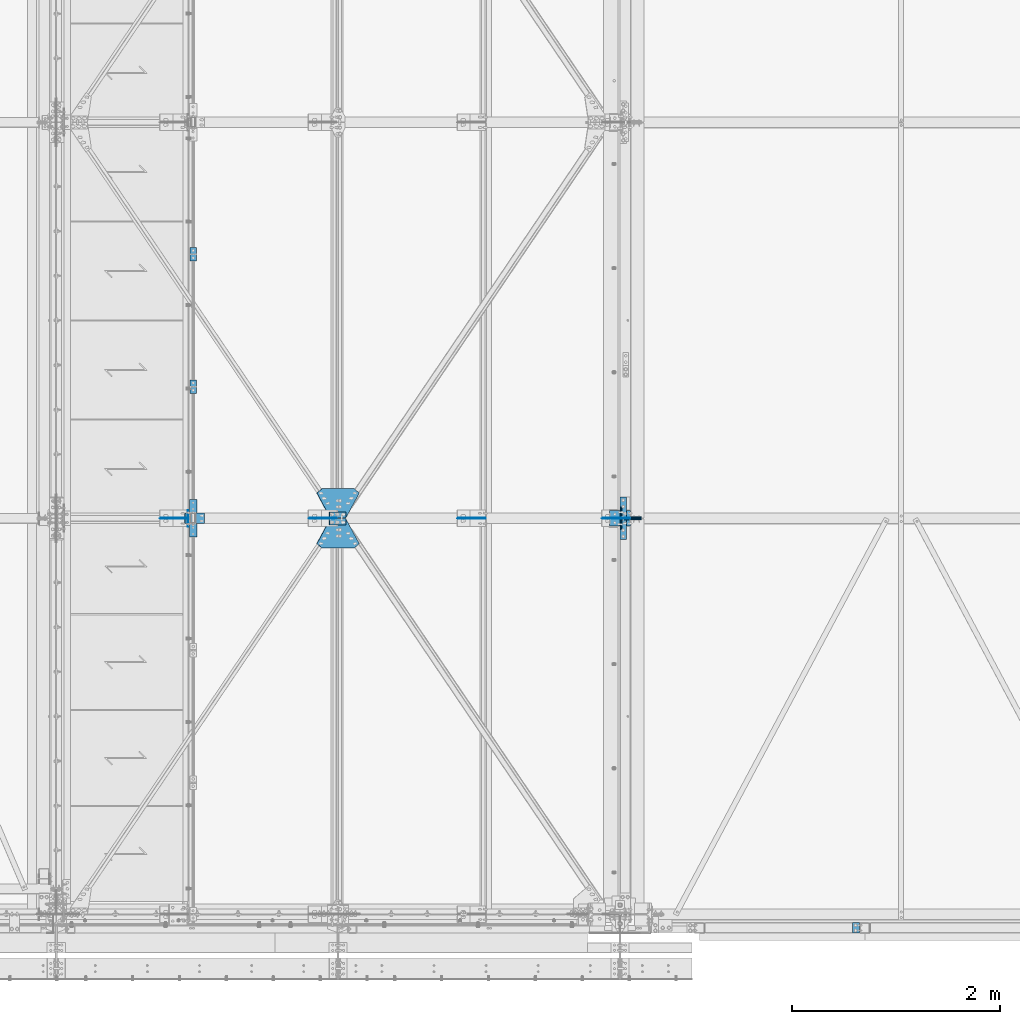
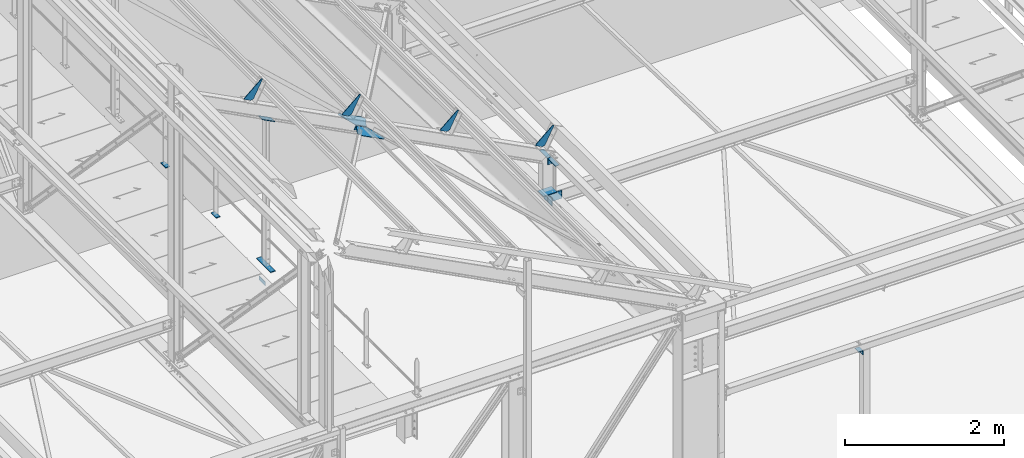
# One storey, part 89 of 362: 14 beams, 5 members, 17 elements without a shape of their own.
"""IFC2X3 building model written with IfcOpenShell, lengths in millimetres."""

from ifc_helpers import new_model, si_unit, frame, origin_with_axes, origin_2d_with_axis, place, context, subcontext, project, spatial, polyline, rectangle, l_section, outline, extrude, material, type_object, element, aggregate, save


model = new_model("IFC2X3")

# Units and contexts
model_context = context("Model", 3, precision=1e-05, world=origin_with_axes())
body_context = subcontext(model_context, "Body", "Model", "MODEL_VIEW")
ifc_project = project(units=[si_unit("LENGTHUNIT", "METRE", prefix="MILLI"), si_unit("AREAUNIT", "SQUARE_METRE"), si_unit("VOLUMEUNIT", "CUBIC_METRE"), si_unit("MASSUNIT", "GRAM", prefix="KILO"), si_unit("TIMEUNIT", "SECOND"), si_unit("PLANEANGLEUNIT", "RADIAN"), si_unit("SOLIDANGLEUNIT", "STERADIAN"), si_unit("THERMODYNAMICTEMPERATUREUNIT", "DEGREE_CELSIUS"), si_unit("LUMINOUSINTENSITYUNIT", "LUMEN")], contexts=[model_context])

# Site, building, storey
site_placement = place(None, origin_with_axes())
site = spatial("IfcSite", under=ifc_project, at=site_placement, Name="Undefined", CompositionType="ELEMENT")
building_placement = place(site_placement, origin_with_axes())
building = spatial("IfcBuilding", under=site, at=building_placement, Name="Undefined", CompositionType="ELEMENT")
storey_placement = place(building_placement, origin_with_axes())
storey = spatial("IfcBuildingStorey", under=building, at=storey_placement, Name="Undefined", CompositionType="ELEMENT", Elevation=0.0)

# Assembly, beams
assembly_1_placement = place(storey_placement, origin_with_axes())
assembly_1 = element("IfcElementAssembly", 1, at=assembly_1_placement, inside=storey, Name="MAIN COURANTE", AssemblyPlace="NOTDEFINED", PredefinedType="NOTDEFINED")
ifc_material = material(Name="Undefined/S235-E24")
beam_type_1 = type_object("IfcBeamType", Name="PL10*60", PredefinedType="NOTDEFINED")
beam_1_placement = place(assembly_1_placement, frame((24783.9916014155, 5130.00343957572, 8245.00000549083), z_axis=(-1.0, 0.0, 0.0), x_axis=(0.0, -1.0, 0.0)))
beam_1 = element("IfcBeam", 2, at=beam_1_placement, type_object=beam_type_1, material=ifc_material, Name="PLATINE", ObjectType="PL10*60", context=body_context, shape_type="SweptSolid", body=[
    extrude(rectangle(XDim=10.0, YDim=60.0, at=origin_2d_with_axis()), frame((130.0, 0.0, 0.0), z_axis=(-1.0, 0.0, 0.0), x_axis=(0.0, -1.0, 0.0)), (0.0, 0.0, 1.0), 130.0),
])
beam_2_placement = place(assembly_1_placement, frame((24783.99160247, 6400.00343957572, 8245.00000462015), z_axis=(-1.0, 0.0, 0.0), x_axis=(0.0, -1.0, 0.0)))
beam_2 = element("IfcBeam", 3, at=beam_2_placement, type_object=beam_type_1, material=ifc_material, Name="PLATINE", ObjectType="PL10*60", context=body_context, shape_type="SweptSolid", body=[
    extrude(rectangle(XDim=10.0, YDim=60.0, at=origin_2d_with_axis()), frame((130.0, 0.0, 0.0), z_axis=(-1.0, 0.0, 0.0), x_axis=(0.0, -1.0, 0.0)), (0.0, 0.0, 1.0), 130.0),
])
aggregate(assembly_1, [beam_1, beam_2])

# Assembly, beam
assembly_2_placement = place(storey_placement, origin_with_axes())
assembly_2 = element("IfcElementAssembly", 4, at=assembly_2_placement, inside=storey, Name="TRAVERSE SHED", AssemblyPlace="NOTDEFINED", PredefinedType="NOTDEFINED")
beam_type_2 = type_object("IfcBeamType", Name="PL10*200", PredefinedType="NOTDEFINED")
beam_3_placement = place(assembly_2_placement, frame((28880.0, 3874.80562184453, 7933.23320419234), z_axis=(-1.0, 0.0, 0.0), x_axis=(0.0, -0.999506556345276, 0.031410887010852)))
beam_3 = element("IfcBeam", 5, at=beam_3_placement, type_object=beam_type_2, material=ifc_material, Name="PLATINE", ObjectType="PL10*200", context=body_context, shape_type="SweptSolid", body=[
    extrude(rectangle(XDim=10.0, YDim=200.0, at=origin_2d_with_axis()), frame((150.0, 0.0, 0.0), z_axis=(-1.0, 0.0, 0.0), x_axis=(0.0, -1.0, 0.0)), (0.0, 0.0, 1.0), 150.0),
])
aggregate(assembly_2, [beam_3])

assembly_3_placement = place(storey_placement, origin_with_axes())
assembly_3 = element("IfcElementAssembly", 6, at=assembly_3_placement, inside=storey, AssemblyPlace="NOTDEFINED", PredefinedType="NOTDEFINED")
beam_type_3 = type_object("IfcBeamType", Name="L70*7", PredefinedType="NOTDEFINED")
beam_4_placement = place(assembly_3_placement, frame((31145.000000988, -180.000008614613, 7065.0), z_axis=(0.0, 0.0, -1.0), x_axis=(0.0, 1.0, 0.0)))
beam_4 = element("IfcBeam", 7, at=beam_4_placement, type_object=beam_type_3, material=ifc_material, Name="ATTACHE", ObjectType="L70*7", context=body_context, shape_type="SweptSolid", body=[
    extrude(l_section(Depth=70.0, Width=70.0, Thickness=7.0, FilletRadius=9.0, EdgeRadius=4.5, at=origin_2d_with_axis()), frame((99.9999999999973, -1.63709046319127e-11, 7.73070496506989e-12), z_axis=(-1.0, 0.0, 0.0), x_axis=(0.0, -1.0, 0.0)), (0.0, 0.0, 1.0), 100.0),
])
aggregate(assembly_3, [beam_4])

# Assembly, member
assembly_4_placement = place(storey_placement, origin_with_axes())
assembly_4 = element("IfcElementAssembly", 8, at=assembly_4_placement, inside=storey, AssemblyPlace="NOTDEFINED", PredefinedType="NOTDEFINED")
member_type_1 = type_object("IfcMemberType", Name="L60*6", PredefinedType="NOTDEFINED")
member_1_placement = place(assembly_4_placement, frame((26078.5292438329, 3767.0003023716, 9900.36242331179), z_axis=(0.0, -1.0, 0.0), x_axis=(0.887870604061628, 0.0, -0.460093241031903)))
member_1 = element("IfcMember", 9, at=member_1_placement, type_object=member_type_1, material=ifc_material, Name="ATTACHE", ObjectType="L60*6", context=body_context, shape_type="SweptSolid", body=[
    extrude(l_section(Depth=60.0, Width=60.0, Thickness=6.0, FilletRadius=8.0, EdgeRadius=4.0, at=origin_2d_with_axis()), frame((180.0, 0.0, 0.0), z_axis=(-1.0, 0.0, 0.0), x_axis=(0.0, -1.0, 0.0)), (0.0, 0.0, 1.0), 180.0),
])
aggregate(assembly_4, [member_1])

assembly_5_placement = place(storey_placement, origin_with_axes())
assembly_5 = element("IfcElementAssembly", 10, at=assembly_5_placement, inside=storey, AssemblyPlace="NOTDEFINED", PredefinedType="NOTDEFINED")
member_2_placement = place(assembly_5_placement, frame((26238.3459558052, 3833.0000991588, 9817.54564781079), z_axis=(0.0, 1.0, 0.0), x_axis=(-0.887870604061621, -1.29999898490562e-08, 0.460093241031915)))
member_2 = element("IfcMember", 11, at=member_2_placement, type_object=member_type_1, material=ifc_material, Name="ATTACHE", ObjectType="L60*6", context=body_context, shape_type="SweptSolid", body=[
    extrude(l_section(Depth=60.0, Width=60.0, Thickness=6.0, FilletRadius=8.0, EdgeRadius=4.0, at=origin_2d_with_axis()), frame((180.0, 0.0, 0.0), z_axis=(-1.0, 0.0, 0.0), x_axis=(0.0, -1.0, 0.0)), (0.0, 0.0, 1.0), 180.0),
])
aggregate(assembly_5, [member_2])

# Assembly, beam
assembly_6_placement = place(storey_placement, origin_with_axes())
assembly_6 = element("IfcElementAssembly", 12, at=assembly_6_placement, inside=storey, Name="PANNE SHED", AssemblyPlace="NOTDEFINED", PredefinedType="NOTDEFINED")
beam_type_4 = type_object("IfcBeamType", Name="TOLE8*140", PredefinedType="NOTDEFINED")
beam_5_placement = place(assembly_6_placement, frame((28714.4895719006, 3800.0, 8721.3758937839), z_axis=(0.0, -1.0, 0.0), x_axis=(-0.460093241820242, 0.0, -0.887870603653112)))
beam_5 = element("IfcBeam", 13, at=beam_5_placement, type_object=beam_type_4, material=ifc_material, Name="RAIDISSEUR", ObjectType="TOLE8*140", context=body_context, shape_type="SweptSolid", body=[
    extrude(outline(polyline([(0.0, 0.0), (19.9999999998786, -3.63797880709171e-12), (20.0000000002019, 109.999999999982), (-9.99999999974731, 139.99998998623), (-300.0000000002, 139.999893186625), (-300.000000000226, 119.999893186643), (0.0, 0.0)])), frame((0.0, 0.0, -4.0), z_axis=(0.0, 0.0, 1.0), x_axis=(1.0, 0.0, 0.0)), (0.0, 0.0, 1.0), 8.0),
])
aggregate(assembly_6, [beam_5])

assembly_7_placement = place(storey_placement, origin_with_axes())
assembly_7 = element("IfcElementAssembly", 14, at=assembly_7_placement, inside=storey, Name="PANNE SHED", AssemblyPlace="NOTDEFINED", PredefinedType="NOTDEFINED")
beam_6_placement = place(assembly_7_placement, frame((27327.8187212, 3800.0, 9439.946688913), z_axis=(0.0, -1.0, 0.0), x_axis=(-0.460093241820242, 0.0, -0.887870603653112)))
beam_6 = element("IfcBeam", 15, at=beam_6_placement, type_object=beam_type_4, material=ifc_material, Name="RAIDISSEUR", ObjectType="TOLE8*140", context=body_context, shape_type="SweptSolid", body=[
    extrude(outline(polyline([(0.0, 0.0), (19.9999999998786, -3.63797880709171e-12), (20.0000000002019, 109.999999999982), (-9.99999999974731, 139.99998998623), (-300.0000000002, 139.999893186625), (-300.000000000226, 119.999893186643), (0.0, 0.0)])), frame((0.0, 0.0, -4.0), z_axis=(0.0, 0.0, 1.0), x_axis=(1.0, 0.0, 0.0)), (0.0, 0.0, 1.0), 8.0),
])
aggregate(assembly_7, [beam_6])

assembly_8_placement = place(storey_placement, origin_with_axes())
assembly_8 = element("IfcElementAssembly", 16, at=assembly_8_placement, inside=storey, Name="PANNE SHED", AssemblyPlace="NOTDEFINED", PredefinedType="NOTDEFINED")
beam_7_placement = place(assembly_8_placement, frame((25901.1937204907, 3800.0, 10179.221665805), z_axis=(0.0, -1.0, 0.0), x_axis=(-0.460093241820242, 0.0, -0.887870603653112)))
beam_7 = element("IfcBeam", 17, at=beam_7_placement, type_object=beam_type_4, material=ifc_material, Name="RAIDISSEUR", ObjectType="TOLE8*140", context=body_context, shape_type="SweptSolid", body=[
    extrude(outline(polyline([(0.0, 0.0), (19.9999999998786, -3.63797880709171e-12), (20.0000000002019, 109.999999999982), (-9.99999999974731, 139.99998998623), (-300.0000000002, 139.999893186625), (-300.000000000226, 119.999893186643), (0.0, 0.0)])), frame((0.0, 0.0, -4.0), z_axis=(0.0, 0.0, 1.0), x_axis=(1.0, 0.0, 0.0)), (0.0, 0.0, 1.0), 8.0),
])
aggregate(assembly_8, [beam_7])

assembly_9_placement = place(storey_placement, origin_with_axes())
assembly_9 = element("IfcElementAssembly", 18, at=assembly_9_placement, inside=storey, Name="PANNE SHED", AssemblyPlace="NOTDEFINED", PredefinedType="NOTDEFINED")
beam_8_placement = place(assembly_9_placement, frame((24474.5687197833, 3800.0, 10918.4966426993), z_axis=(0.0, -1.0, 0.0), x_axis=(-0.460093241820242, 0.0, -0.887870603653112)))
beam_8 = element("IfcBeam", 19, at=beam_8_placement, type_object=beam_type_4, material=ifc_material, Name="RAIDISSEUR", ObjectType="TOLE8*140", context=body_context, shape_type="SweptSolid", body=[
    extrude(outline(polyline([(0.0, 0.0), (19.9999999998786, -3.63797880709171e-12), (20.0000000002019, 109.999999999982), (-9.99999999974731, 139.99998998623), (-300.0000000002, 139.999893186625), (-300.000000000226, 119.999893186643), (0.0, 0.0)])), frame((0.0, 0.0, -4.0), z_axis=(0.0, 0.0, 1.0), x_axis=(1.0, 0.0, 0.0)), (0.0, 0.0, 1.0), 8.0),
])
aggregate(assembly_9, [beam_8])

# Assembly, member
assembly_10_placement = place(storey_placement, origin_with_axes())
assembly_10 = element("IfcElementAssembly", 20, at=assembly_10_placement, inside=storey, AssemblyPlace="NOTDEFINED", PredefinedType="NOTDEFINED")
member_type_2 = type_object("IfcMemberType", Name="L200*100*10", PredefinedType="NOTDEFINED")
member_3_placement = place(assembly_10_placement, frame((28986.0000000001, 3851.08957529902, 7768.89607009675), z_axis=(1.0, 0.0, 0.0), x_axis=(7.58071938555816e-11, 0.0314107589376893, 0.999506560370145)))
member_3 = element("IfcMember", 21, at=member_3_placement, type_object=member_type_2, material=ifc_material, Name="ATTACHE", ObjectType="L200*100*10", context=body_context, shape_type="SweptSolid", body=[
    extrude(l_section(Depth=200.0, Width=100.0, Thickness=10.0, FilletRadius=15.0, EdgeRadius=7.5, at=origin_2d_with_axis()), frame((120.0, 0.0, 0.0), z_axis=(-1.0, 0.0, 0.0), x_axis=(0.0, -1.0, 0.0)), (0.0, 0.0, 1.0), 120.0),
])
aggregate(assembly_10, [member_3])

assembly_11_placement = place(storey_placement, origin_with_axes())
assembly_11 = element("IfcElementAssembly", 22, at=assembly_11_placement, inside=storey, AssemblyPlace="NOTDEFINED", PredefinedType="NOTDEFINED")
member_4_placement = place(assembly_11_placement, frame((28986.0000000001, 3748.91036573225, 7892.16647180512), z_axis=(1.0, 0.0, 0.0), x_axis=(-1.05403257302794e-09, -0.0314112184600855, -0.999506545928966)))
member_4 = element("IfcMember", 23, at=member_4_placement, type_object=member_type_2, material=ifc_material, Name="ATTACHE", ObjectType="L200*100*10", context=body_context, shape_type="SweptSolid", body=[
    extrude(l_section(Depth=200.0, Width=100.0, Thickness=10.0, FilletRadius=15.0, EdgeRadius=7.5, at=origin_2d_with_axis()), frame((120.0, 0.0, 0.0), z_axis=(-1.0, 0.0, 0.0), x_axis=(0.0, -1.0, 0.0)), (0.0, 0.0, 1.0), 120.0),
])
aggregate(assembly_11, [member_4])

# Assembly, beam
assembly_12_placement = place(storey_placement, origin_with_axes())
assembly_12 = element("IfcElementAssembly", 24, at=assembly_12_placement, inside=storey, AssemblyPlace="NOTDEFINED", PredefinedType="NOTDEFINED")
beam_type_5 = type_object("IfcBeamType", Name="L200*100*10", PredefinedType="NOTDEFINED")
beam_9_placement = place(assembly_12_placement, frame((28940.0, 3903.5, 8400.0), z_axis=(0.0, 1.0, 0.0), x_axis=(-1.0, 0.0, 0.0)))
beam_9 = element("IfcBeam", 25, at=beam_9_placement, type_object=beam_type_5, material=ifc_material, Name="ATTACHE", ObjectType="L200*100*10", context=body_context, shape_type="SweptSolid", body=[
    extrude(l_section(Depth=200.0, Width=100.0, Thickness=10.0, FilletRadius=15.0, EdgeRadius=7.5, at=origin_2d_with_axis()), frame((60.0, 0.0, 0.0), z_axis=(-1.0, 0.0, 0.0), x_axis=(0.0, -1.0, 0.0)), (0.0, 0.0, 1.0), 60.0),
])
aggregate(assembly_12, [beam_9])

assembly_13_placement = place(storey_placement, origin_with_axes())
assembly_13 = element("IfcElementAssembly", 26, at=assembly_13_placement, inside=storey, AssemblyPlace="NOTDEFINED", PredefinedType="NOTDEFINED")
beam_10_placement = place(assembly_13_placement, frame((28880.0, 3696.5, 8400.0), z_axis=(0.0, -1.0, 0.0), x_axis=(1.0, 0.0, 0.0)))
beam_10 = element("IfcBeam", 27, at=beam_10_placement, type_object=beam_type_5, material=ifc_material, Name="ATTACHE", ObjectType="L200*100*10", context=body_context, shape_type="SweptSolid", body=[
    extrude(l_section(Depth=200.0, Width=100.0, Thickness=10.0, FilletRadius=15.0, EdgeRadius=7.5, at=origin_2d_with_axis()), frame((60.0, 0.0, 0.0), z_axis=(-1.0, 0.0, 0.0), x_axis=(0.0, -1.0, 0.0)), (0.0, 0.0, 1.0), 60.0),
])
aggregate(assembly_13, [beam_10])

# Assembly, member
assembly_14_placement = place(storey_placement, origin_with_axes())
assembly_14 = element("IfcElementAssembly", 28, at=assembly_14_placement, inside=storey, AssemblyPlace="NOTDEFINED", PredefinedType="NOTDEFINED")
member_type_3 = type_object("IfcMemberType", Name="PL10*100", PredefinedType="NOTDEFINED")
member_5_placement = place(assembly_14_placement, frame((24701.7827800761, 3800.00000001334, 10536.0763720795), z_axis=(0.0, -1.0, 0.0), x_axis=(0.887870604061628, 0.0, -0.460093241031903)))
member_5 = element("IfcMember", 29, at=member_5_placement, type_object=member_type_3, material=ifc_material, Name="PLATINE", ObjectType="PL10*100", context=body_context, shape_type="SweptSolid", body=[
    extrude(rectangle(XDim=10.0, YDim=100.0, at=origin_2d_with_axis()), frame((210.000000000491, 0.0, 1.81898940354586e-12), z_axis=(-1.0, 0.0, 0.0), x_axis=(0.0, -1.0, 0.0)), (0.0, 0.0, 1.0), 210.0),
])

# Assembly, beam
assembly_15_placement = place(storey_placement, origin_with_axes())
assembly_15 = element("IfcElementAssembly", 30, at=assembly_15_placement, inside=storey, AssemblyPlace="NOTDEFINED", PredefinedType="NOTDEFINED")
beam_type_6 = type_object("IfcBeamType", Name="TOLE6*60", PredefinedType="NOTDEFINED")
beam_11_placement = place(assembly_15_placement, frame((24732.9916006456, 3720.0, 7985.0), z_axis=(-1.0, 0.0, 0.0), x_axis=(0.0, 0.0, 1.0)))
beam_11 = element("IfcBeam", 31, at=beam_11_placement, type_object=beam_type_6, material=ifc_material, Name="PLATINE", ObjectType="TOLE6*60", context=body_context, shape_type="SweptSolid", body=[
    extrude(outline(polyline([(0.0, 0.0), (60.0, 0.0), (60.0, 159.999984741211), (0.0, 159.999984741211), (0.0, 0.0)])), frame((0.0, 0.0, -3.0), z_axis=(0.0, 0.0, 1.0), x_axis=(1.0, 0.0, 0.0)), (0.0, 0.0, 1.0), 6.0),
])
aggregate(assembly_15, [beam_11])

# Beam
beam_type_7 = type_object("IfcBeamType", Name="PL10*70", PredefinedType="NOTDEFINED")
beam_12_placement = place(assembly_14_placement, frame((24783.9916006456, 3980.00010616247, 8245.00000367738), z_axis=(1.0, 0.0, 0.0), x_axis=(0.0, -1.0, 0.0)))
beam_12 = element("IfcBeam", 32, at=beam_12_placement, type_object=beam_type_7, material=ifc_material, Name="PLATINE", ObjectType="PL10*70", context=body_context, shape_type="SweptSolid", body=[
    extrude(rectangle(XDim=10.0, YDim=70.0, at=origin_2d_with_axis()), frame((360.000000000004, 0.0, 0.0), z_axis=(-1.0, 0.0, 0.0), x_axis=(0.0, -1.0, 0.0)), (0.0, 0.0, 1.0), 360.0),
])

aggregate(assembly_14, [member_5, beam_12])

# Assembly, beam
assembly_16_placement = place(storey_placement, origin_with_axes())
assembly_16 = element("IfcElementAssembly", 33, at=assembly_16_placement, inside=storey, AssemblyPlace="NOTDEFINED", PredefinedType="NOTDEFINED")
beam_type_8 = type_object("IfcBeamType", Name="TOLE6*272", PredefinedType="NOTDEFINED")
beam_13_placement = place(assembly_16_placement, frame((26253.5290608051, 3813.00000196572, 9846.8454382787), z_axis=(-0.460093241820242, 0.0, -0.887870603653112), x_axis=(-0.887870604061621, -1.29999898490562e-08, 0.460093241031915)))
beam_13 = element("IfcBeam", 34, at=beam_13_placement, type_object=beam_type_8, material=ifc_material, Name="GOUSSET", ObjectType="TOLE6*272", context=body_context, shape_type="SweptSolid", body=[
    extrude(outline(polyline([(0.0, 0.0), (180.000000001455, -5.27506927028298e-10), (319.15396118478, 229.886291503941), (263.483459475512, 272.322082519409), (-83.481330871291, 272.322082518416), (-139.151824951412, 229.88630676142), (0.0, 0.0)])), frame((0.0, 0.0, -3.0), z_axis=(0.0, 0.0, 1.0), x_axis=(1.0, 0.0, 0.0)), (0.0, 0.0, 1.0), 6.0),
])
aggregate(assembly_16, [beam_13])

assembly_17_placement = place(storey_placement, origin_with_axes())
assembly_17 = element("IfcElementAssembly", 35, at=assembly_17_placement, inside=storey, AssemblyPlace="NOTDEFINED", PredefinedType="NOTDEFINED")
beam_14_placement = place(assembly_17_placement, frame((26253.5290611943, 3787.00040494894, 9846.84543827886), z_axis=(0.460093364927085, 0.0, 0.887870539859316), x_axis=(-0.887870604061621, -1.29999898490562e-08, 0.460093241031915)))
beam_14 = element("IfcBeam", 36, at=beam_14_placement, type_object=beam_type_8, material=ifc_material, Name="GOUSSET", ObjectType="TOLE6*272", context=body_context, shape_type="SweptSolid", body=[
    extrude(outline(polyline([(0.0, 0.0), (180.000000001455, -5.27506927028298e-10), (319.15396118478, 229.886291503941), (263.483459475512, 272.322082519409), (-83.481330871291, 272.322082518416), (-139.151824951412, 229.88630676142), (0.0, 0.0)])), frame((0.0, 0.0, -3.0), z_axis=(0.0, 0.0, 1.0), x_axis=(1.0, 0.0, 0.0)), (0.0, 0.0, 1.0), 6.0),
])
aggregate(assembly_17, [beam_14])

save(model, "model.ifc")
